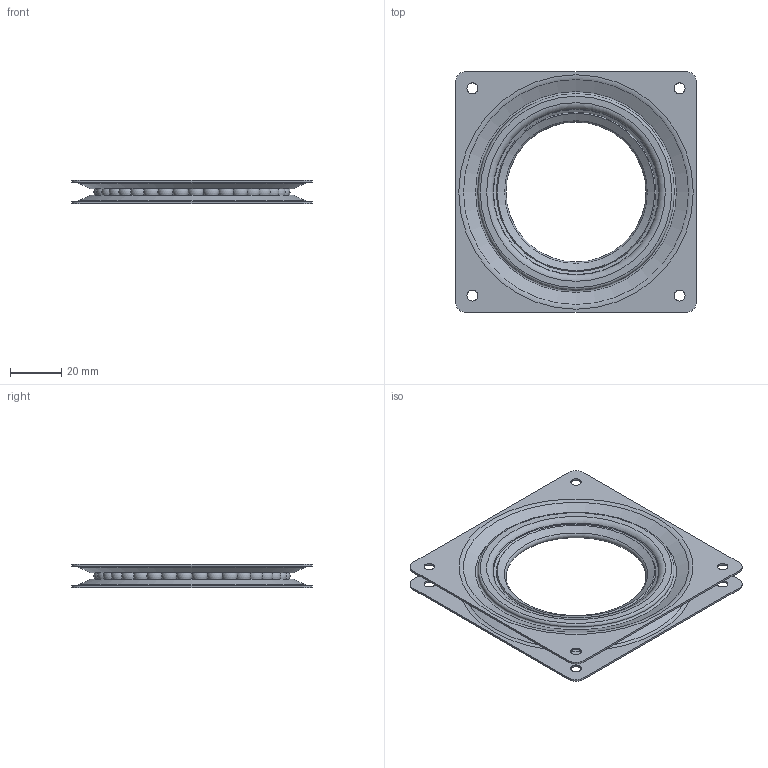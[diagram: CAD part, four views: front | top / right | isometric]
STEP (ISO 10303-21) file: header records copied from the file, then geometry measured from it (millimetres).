
FILE_DESCRIPTION(/* description */ (''),/* implementation_level */ '2;1');
FILE_NAME(/* name */ '1620-0001-0004.step',/* time_stamp */ '2026-05-12T11:52:00-05:00',/* author */ (''),/* organization */ (''),/* preprocessor_version */ 'ST-DEVELOPER v20.1',/* originating_system */ 'Autodesk Translation Framework v15.8.0.0',/* authorisation */ '');
FILE_SCHEMA (('AUTOMOTIVE_DESIGN { 1 0 10303 214 3 1 1 }'));
Length unit declared in the file: millimetre
Products named in the file (4): 1620-0001-0004; Female; Male; Balls
Assembly tree (3 placements, depth 2):
  1620-0001-0004
    Female
    Male
    Balls
Bounding box: 94.1 x 94.1 x 9 mm (x, y, z)
Volume: 15189.7 mm3; surface area: 34445 mm2
Topology: 39 solids, 39 shells, 103 faces, 257 edges, 162 vertices
Faces by surface type: sphere 37, torus 22, cylinder 16, plane 16, cone 12
Full cylindrical faces by diameter (mm): 4.25 x8
Entity records: 2849 total; most frequent: DIRECTION 534, CARTESIAN_POINT 455, ORIENTED_EDGE 366, AXIS2_PLACEMENT_3D 241, EDGE_CURVE 183, VERTEX_POINT 162, CIRCLE 131, EDGE_LOOP 127
